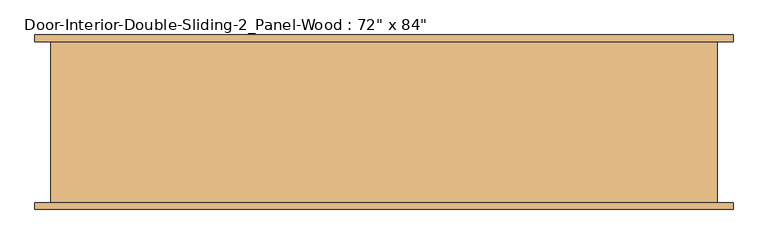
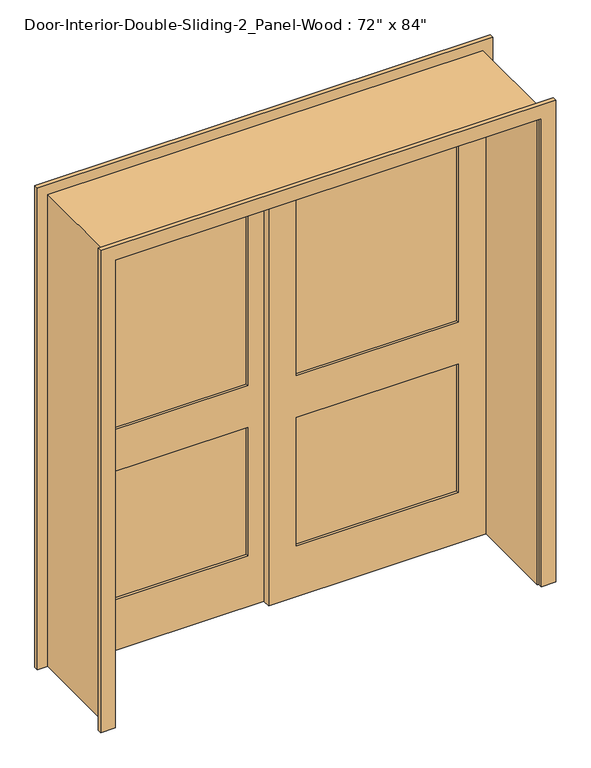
"""IFC4 building model written with IfcOpenShell, lengths in millimetres: door geometry."""

import ifcopenshell
import ifcopenshell.guid

model = None  # the IFC model being written
_history = None  # IfcOwnerHistory: only IFC2X3 demands one
_inside = {}  # id of a spatial element -> (the spatial element, [elements in it])
_under = {}  # id of a project, library or spatial element -> (it, [spatial elements below it])
_declared = {}  # id of a project -> (the project, [libraries it declares])
_typed = {}  # id of a type object -> (the type object, [elements of that type])
_made_of = {}  # id of a material, layer set ... -> (it, [elements and type objects made of it])


def new_model(schema):
    """Start an empty IFC model of exactly this schema.

    Asked for "IFC4X3", IfcOpenShell would pick the latest addendum, in which some entities
    have other attributes; the version numbers below select the first issue.
    IFC2X3 requires an IfcOwnerHistory on every rooted entity: one is made here for all.
    """
    global model, _history
    if schema == "IFC4X3":
        model = ifcopenshell.file(schema_version=(4, 3, 0, 0))
    else:
        model = ifcopenshell.file(schema=schema)
    _inside.clear()
    _under.clear()
    _declared.clear()
    _typed.clear()
    _made_of.clear()
    _history = None
    if model.schema == "IFC2X3":
        org = make("IfcOrganization", Name="unknown")
        user = make(
            "IfcPersonAndOrganization",
            ThePerson=make("IfcPerson", FamilyName="unknown"),
            TheOrganization=org,
        )
        app = make(
            "IfcApplication",
            ApplicationDeveloper=org,
            Version="unknown",
            ApplicationFullName="unknown",
            ApplicationIdentifier="unknown",
        )
        _history = make(
            "IfcOwnerHistory",
            OwningUser=user,
            OwningApplication=app,
            ChangeAction="ADDED",
            CreationDate=0,
        )
    return model


def make(cls, **values):
    """One entity of the class cls with the attributes given. An attribute that is None is left unset."""
    return model.create_entity(
        cls, **{name: value for name, value in values.items() if value is not None}
    )


def rooted(cls, **values):
    """An entity with a GlobalId (a new one), such as an element, a storey or a relation."""
    return make(cls, GlobalId=ifcopenshell.guid.new(), OwnerHistory=_history, **values)


def si_unit(unit_type, name, prefix=None):
    """IfcSIUnit, for example si_unit("LENGTHUNIT", "METRE", prefix="MILLI")."""
    return make("IfcSIUnit", UnitType=unit_type, Prefix=prefix, Name=name)


def assignment(units):
    """IfcUnitAssignment: the units of a project."""
    return None if units is None else make("IfcUnitAssignment", Units=units)


def point(xyz):
    """IfcCartesianPoint."""
    return None if xyz is None else make("IfcCartesianPoint", Coordinates=xyz)


def direction(xyz):
    """IfcDirection."""
    return None if xyz is None else make("IfcDirection", DirectionRatios=xyz)


def frame(location, z_axis=None, x_axis=None):
    """IfcAxis2Placement3D, a coordinate frame: its origin and axes. An axis left out is left unset."""
    return make(
        "IfcAxis2Placement3D",
        Location=point(location),
        Axis=direction(z_axis),
        RefDirection=direction(x_axis),
    )


def origin():
    """The frame at (0, 0, 0) with its axes left unset."""
    return frame((0.0, 0.0, 0.0))


def place(relative_to, where):
    """IfcLocalPlacement: puts the frame where relative to a parent placement (None: the world)."""
    return make(
        "IfcLocalPlacement", PlacementRelTo=relative_to, RelativePlacement=where
    )


def context(
    kind, dimensions, precision=None, world=None, true_north=None, identifier=None
):
    """IfcGeometricRepresentationContext, for example the 3D "Model" context."""
    return make(
        "IfcGeometricRepresentationContext",
        ContextIdentifier=identifier,
        ContextType=kind,
        CoordinateSpaceDimension=dimensions,
        Precision=precision,
        WorldCoordinateSystem=world,
        TrueNorth=true_north,
    )


def project(units=None, contexts=None):
    """IfcProject with its units and contexts."""
    return rooted(
        "IfcProject",
        Name="project",
        RepresentationContexts=contexts,
        UnitsInContext=assignment(units),
    )


def spatial(cls, under=None, at=None, **own):
    """A site, building, storey or space (cls), placed at a placement, below another one or the project."""
    s = rooted(cls, ObjectPlacement=at, **own)
    if under is not None:
        _under.setdefault(under.id(), (under, []))[1].append(s)
    return s


def polyline(points):
    """IfcPolyline through the points."""
    return make("IfcPolyline", Points=[point(p) for p in points])


def outline(outer, holes=None, kind="AREA"):
    """IfcArbitraryClosedProfileDef: a profile drawn as a closed curve; with holes, ...WithVoids."""
    if holes is None:
        return make("IfcArbitraryClosedProfileDef", ProfileType=kind, OuterCurve=outer)
    return make(
        "IfcArbitraryProfileDefWithVoids",
        ProfileType=kind,
        OuterCurve=outer,
        InnerCurves=holes,
    )


def extrude(swept, where, along, depth):
    """IfcExtrudedAreaSolid: the profile swept, set in the frame where, extruded along a direction by depth."""
    return make(
        "IfcExtrudedAreaSolid",
        SweptArea=swept,
        Position=where,
        ExtrudedDirection=direction(along),
        Depth=depth,
    )


def shape(context_of_items, identifier, shape_type, items):
    """IfcShapeRepresentation: the items that make up one representation, for example the "Body"."""
    return make(
        "IfcShapeRepresentation",
        ContextOfItems=context_of_items,
        RepresentationIdentifier=identifier,
        RepresentationType=shape_type,
        Items=items,
    )


def source(mapping_origin, context_of_items, identifier, shape_type, items):
    """IfcRepresentationMap: a shape defined once, which mapped items show again and again."""
    return make(
        "IfcRepresentationMap",
        MappingOrigin=mapping_origin,
        MappedRepresentation=shape(context_of_items, identifier, shape_type, items),
    )


def transform(
    local_origin,
    x_axis=None,
    y_axis=None,
    z_axis=None,
    scale=None,
    scale2=None,
    scale3=None,
    uniform=True,
):
    """IfcCartesianTransformationOperator3D, or its non-uniform kind. x_axis, y_axis, z_axis: its Axis1, 2, 3."""
    if uniform:
        return make(
            "IfcCartesianTransformationOperator3D",
            Axis1=direction(x_axis),
            Axis2=direction(y_axis),
            LocalOrigin=point(local_origin),
            Scale=scale,
            Axis3=direction(z_axis),
        )
    return make(
        "IfcCartesianTransformationOperator3DnonUniform",
        Axis1=direction(x_axis),
        Axis2=direction(y_axis),
        LocalOrigin=point(local_origin),
        Scale=scale,
        Axis3=direction(z_axis),
        Scale2=scale2,
        Scale3=scale3,
    )


def mapped(mapping_source, mapping_target):
    """IfcMappedItem: shows the shape of a source again, moved by a transform."""
    return make(
        "IfcMappedItem", MappingSource=mapping_source, MappingTarget=mapping_target
    )


def made_of(thing, what):
    """Note that an element or type object is made of a material, layer set ...; save() writes the relation."""
    if what is not None:
        _made_of.setdefault(what.id(), (what, []))[1].append(thing)
    return thing


def element(
    cls,
    number,
    at=None,
    inside=None,
    cuts=None,
    type_object=None,
    material=None,
    context=None,
    identifier="Body",
    shape_type=None,
    held_by="IfcProductDefinitionShape",
    body=None,
    shapes=None,
    **own,
):
    """One element of the class cls, such as IfcWall. Its Tag is "e" and its number.

    at: its placement. inside: the storey or other place that contains it. cuts: it is an
    opening in that element (IfcRelVoidsElement). A single representation is given by context,
    identifier, shape_type and body (its items); several are given by shapes. held_by: the class
    of the entity that holds the representations. save() writes the other relations.
    """
    e = rooted(cls, Tag="e%d" % number, ObjectPlacement=at, **own)
    if body is not None:
        shapes = [shape(context, identifier, shape_type, body)]
    if shapes is not None:
        e.Representation = make(held_by, Representations=shapes)
    if inside is not None:
        _inside.setdefault(inside.id(), (inside, []))[1].append(e)
    if cuts is not None:
        rooted(
            "IfcRelVoidsElement", RelatingBuildingElement=cuts, RelatedOpeningElement=e
        )
    if type_object is not None:
        _typed.setdefault(type_object.id(), (type_object, []))[1].append(e)
    return made_of(e, material)


def aggregate(whole, parts):
    """IfcRelAggregates: a whole, such as a stair, and the parts it consists of."""
    return rooted("IfcRelAggregates", RelatingObject=whole, RelatedObjects=parts)


def save(model, path):
    """Write the relations noted so far, then the file.

    IfcRelAggregates (storeys below a building ...), IfcRelContainedInSpatialStructure (elements
    in a storey), IfcRelDefinesByType, IfcRelAssociatesMaterial and IfcRelDeclares: one each for
    every whole, place, type object, material and project.
    """
    for whole, parts in _under.values():
        aggregate(whole, parts)
    for where, things in _inside.values():
        rooted(
            "IfcRelContainedInSpatialStructure",
            RelatedElements=things,
            RelatingStructure=where,
        )
    for kind, things in _typed.values():
        rooted("IfcRelDefinesByType", RelatedObjects=things, RelatingType=kind)
    for what, things in _made_of.values():
        rooted("IfcRelAssociatesMaterial", RelatedObjects=things, RelatingMaterial=what)
    for by, libraries in _declared.values():
        rooted("IfcRelDeclares", RelatingContext=by, RelatedDefinitions=libraries)
    model.write(path)


def door_5c496fa4(model_context):
    return source(origin(), model_context, "Body", "SweptSolid", [
        extrude(outline(polyline([(793.75, 165.6291667), (95.25, 165.6291667), (95.25, 177.2708333), (793.75, 177.2708333), (793.75, 165.6291667)])), frame((0.0, 0.0, 1009.65), z_axis=(0.0, 0.0, 1.0), x_axis=(1.0, 0.0, 0.0)), (0.0, 0.0, 1.0), 1004.8875),
        extrude(outline(polyline([(793.75, 165.6291667), (95.25, 165.6291667), (95.25, 177.2708333), (793.75, 177.2708333), (793.75, 165.6291667)])), frame((0.0, 0.0, 231.775), z_axis=(0.0, 0.0, 1.0), x_axis=(1.0, 0.0, 0.0)), (0.0, 0.0, 1.0), 587.375),
        extrude(outline(polyline([(2133.6, -25.4), (0.0, -25.4), (0.0, 914.4), (2133.6, 914.4), (2133.6, -25.4)]), holes=[polyline([(2014.5375, 95.25), (2014.5375, 793.75), (1009.65, 793.75), (1009.65, 95.25), (2014.5375, 95.25)]), polyline([(819.15, 95.25), (819.15, 793.75), (231.775, 793.75), (231.775, 95.25), (819.15, 95.25)])]), frame((0.0, 153.9875, 0.0), z_axis=(0.0, 1.0, 0.0), x_axis=(0.0, 0.0, 1.0)), (0.0, 0.0, 1.0), 34.925),
        extrude(outline(polyline([(-95.25, 200.5541667), (-793.75, 200.5541667), (-793.75, 212.1958333), (-95.25, 212.1958333), (-95.25, 200.5541667)])), frame((0.0, 0.0, 1009.65), z_axis=(0.0, 0.0, 1.0), x_axis=(1.0, 0.0, 0.0)), (0.0, 0.0, 1.0), 1004.8875),
        extrude(outline(polyline([(-95.25, 200.5541667), (-793.75, 200.5541667), (-793.75, 212.1958333), (-95.25, 212.1958333), (-95.25, 200.5541667)])), frame((0.0, 0.0, 231.775), z_axis=(0.0, 0.0, 1.0), x_axis=(1.0, 0.0, 0.0)), (0.0, 0.0, 1.0), 587.375),
        extrude(outline(polyline([(2133.6, -914.4), (0.0, -914.4), (0.0, 25.4), (2133.6, 25.4), (2133.6, -914.4)]), holes=[polyline([(2014.5375, -793.75), (2014.5375, -95.25), (1009.65, -95.25), (1009.65, -793.75), (2014.5375, -793.75)]), polyline([(819.15, -793.75), (819.15, -95.25), (231.775, -95.25), (231.775, -793.75), (819.15, -793.75)])]), frame((0.0, 188.9125, 0.0), z_axis=(0.0, 1.0, 0.0), x_axis=(0.0, 0.0, 1.0)), (0.0, 0.0, 1.0), 34.925),
        extrude(outline(polyline([(0.0, 914.4), (0.0, 939.8), (2159.0, 939.8), (2159.0, -939.8), (0.0, -939.8), (0.0, -914.4), (2133.6, -914.4), (2133.6, 914.4), (0.0, 914.4)])), frame((0.0, -230.1875, 0.0), z_axis=(0.0, 1.0, 0.0), x_axis=(0.0, 0.0, 1.0)), (0.0, 0.0, 1.0), 454.025),
        extrude(outline(polyline([(0.0, 920.75), (0.0, 984.25), (2203.45, 984.25), (2203.45, -984.25), (0.0, -984.25), (0.0, -920.75), (2139.95, -920.75), (2139.95, 920.75), (0.0, 920.75)])), frame((0.0, -249.2375, 0.0), z_axis=(0.0, 1.0, 0.0), x_axis=(0.0, 0.0, 1.0)), (0.0, 0.0, 1.0), 19.05),
        extrude(outline(polyline([(0.0, 920.75), (0.0, 984.25), (2203.45, 984.25), (2203.45, -984.25), (0.0, -984.25), (0.0, -920.75), (2139.95, -920.75), (2139.95, 920.75), (0.0, 920.75)])), frame((0.0, 223.8375, 0.0), z_axis=(0.0, 1.0, 0.0), x_axis=(0.0, 0.0, 1.0)), (0.0, 0.0, 1.0), 19.05),
    ])


if __name__ == "__main__":
    model = new_model("IFC4")
    model_context = context("Model", 3, world=origin())
    ifc_project = project(units=[si_unit("LENGTHUNIT", "METRE", prefix="MILLI")], contexts=[model_context])
    site = spatial("IfcSite", under=ifc_project)
    building = spatial("IfcBuilding", under=site)
    placement = place(None, origin())
    door_shape = door_5c496fa4(model_context)
    element("IfcDoor", 1, ObjectType="Door-Interior-Double-Sliding-2_Panel-Wood : 72\" x 84\"", at=placement, inside=building, context=model_context, shape_type="MappedRepresentation", body=[
        mapped(door_shape, transform((0.0, 0.0, 0.0), x_axis=(1.0, 0.0, 0.0), y_axis=(0.0, 1.0, 0.0), z_axis=(0.0, 0.0, 1.0))),
    ])
    save(model, "model.ifc")
